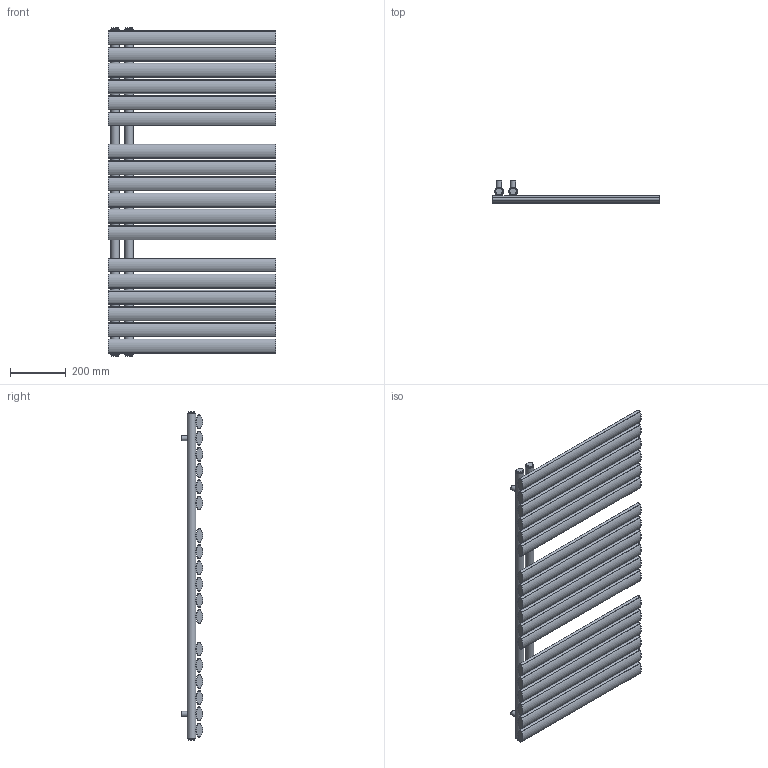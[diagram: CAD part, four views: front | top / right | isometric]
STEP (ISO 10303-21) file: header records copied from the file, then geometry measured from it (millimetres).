
FILE_DESCRIPTION(/* description */ (''),/* implementation_level */ '2;1');
FILE_NAME(/* name */ 'C:\Grzejniki\13DLUXRAD\łazienkowe\FLAG BIS\FLAG BIS 1164x600.iam.stp',/* time_stamp */ '2016-06-28T17:34:34+02:00',/* author */ ('m.szydziak'),/* organization */ (''),/* preprocessor_version */ 'ST-DEVELOPER v16.5',/* originating_system */ 'Autodesk Inventor 2017',/* authorisation */ '');
FILE_SCHEMA (('AUTOMOTIVE_DESIGN { 1 0 10303 214 3 1 1 }'));
Length unit declared in the file: millimetre
Products named in the file (6): FLAG BIS 1164x600; fi30x1,5x1164v2; 50x25x1,2x600; uchwyt stały; zaślepka fi30 G0,5inch; korek
Assembly tree (32 placements, depth 2):
  FLAG BIS 1164x600
    fi30x1,5x1164v2  x2
    50x25x1,2x600  x18
    uchwyt stały  x4
    zaślepka fi30 G0,5inch  x4
    korek  x4
Bounding box: 600 x 76.86 x 1176 mm (x, y, z)
Volume: 1877359.3 mm3; surface area: 3014379.1 mm2
Topology: 32 solids, 32 shells, 388 faces, 1012 edges, 724 vertices
Faces by surface type: cylinder 240, plane 148
Full cylindrical faces by diameter (mm): 5 x36, 6 x36, 15 x4, 18 x4, 18.631 x4, 24 x4, 27 x6, 30 x2
Entity records: 3460 total; most frequent: CARTESIAN_POINT 1703, DIRECTION 308, ORIENTED_EDGE 266, AXIS2_PLACEMENT_3D 138, EDGE_CURVE 133, EDGE_LOOP 132, VERTEX_POINT 113, FACE_BOUND 73
